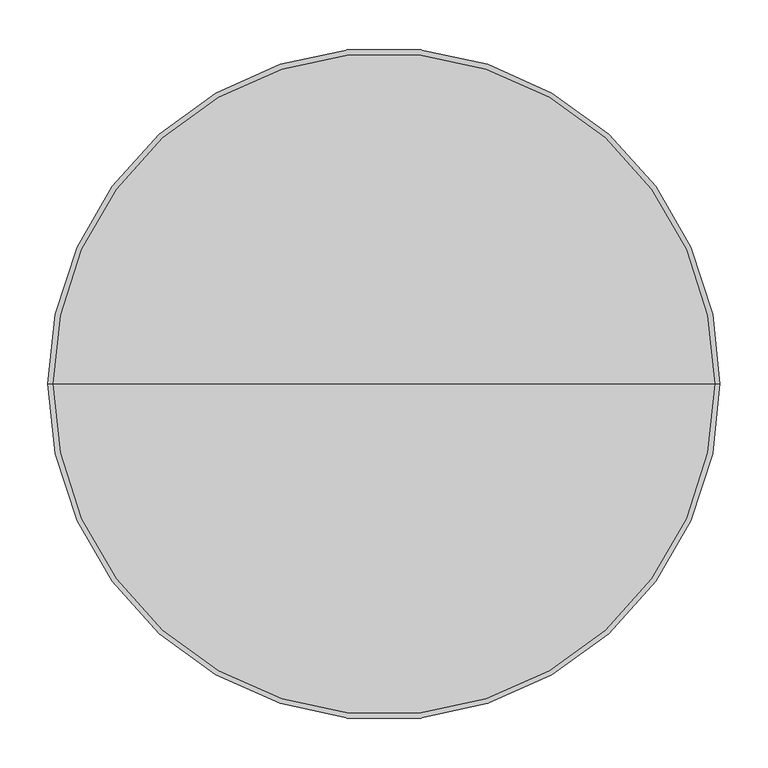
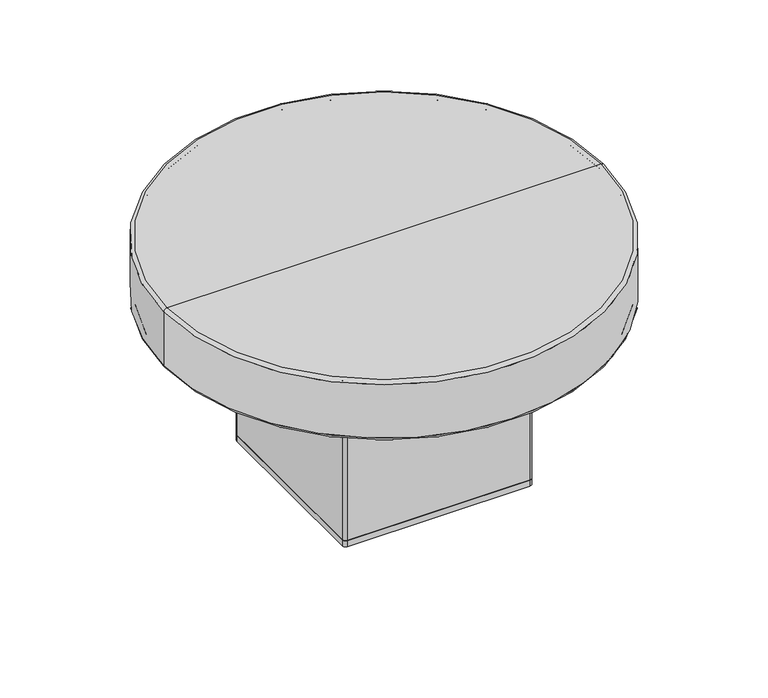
"""IFC4 building model written with IfcOpenShell, lengths in millimetres: furniture geometry, Norr11 - Naked - Coffee Table : Norr11 - Naked - Coffee Table."""

from ifc_helpers import new_model, si_unit, point, frame, origin, place, context, project, spatial, polyline, circle_curve, ellipse_curve, trimmed, source, transform, mapped, element, save
from ifc_brep_helpers import plane_surface, cylinder_surface, revolved_surface, advanced_brep


def furniture_f807c984(model_context):
    return source(origin(), model_context, "Body", "AdvancedBrep", [
        advanced_brep(
        [(-145.0, 150.0, 10.0), (-150.0, 145.0, 10.0), (-150.0, -145.0, 10.0), (-145.0, -150.0, 10.0), (145.0, -150.0, 10.0), (150.0, -145.0, 10.0), (150.0, 145.0, 10.0), (145.0, 150.0, 10.0), (139.0, 144.0, 10.0), (144.0, 139.0, 10.0), (144.0, -139.0, 10.0), (139.0, -144.0, 10.0), (-139.0, -144.0, 10.0), (-144.0, -139.0, 10.0), (-144.0, 139.0, 10.0), (-139.0, 144.0, 10.0), (-145.0, 150.0, 0.0), (145.0, 150.0, 0.0), (150.0, 145.0, 0.0), (150.0, -145.0, 0.0), (145.0, -150.0, 0.0), (-145.0, -150.0, 0.0), (-150.0, -145.0, 0.0), (-150.0, 145.0, 0.0), (139.0, 144.0, 40.0), (-139.0, 144.0, 40.0), (-144.0, 139.0, 40.0), (-144.0, -139.0, 40.0), (-139.0, -144.0, 40.0), (139.0, -144.0, 40.0), (144.0, -139.0, 40.0), (144.0, 139.0, 40.0)],
        [
            (0, 1, circle_curve(frame((-145.0, 145.0, 10.0), z_axis=(0.0, 0.0, 1.0), x_axis=(1.0, 0.0, 0.0)), 5.0)),
            (1, 2),
            (2, 3, circle_curve(frame((-145.0, -145.0, 10.0), z_axis=(0.0, 0.0, 1.0), x_axis=(1.0, 0.0, 0.0)), 5.0)),
            (3, 4),
            (4, 5, circle_curve(frame((145.0, -145.0, 10.0), z_axis=(0.0, 0.0, 1.0), x_axis=(1.0, 0.0, 0.0)), 5.0)),
            (5, 6),
            (6, 7, circle_curve(frame((145.0, 145.0, 10.0), z_axis=(0.0, 0.0, 1.0), x_axis=(1.0, 0.0, 0.0)), 5.0)),
            (7, 0),
            (8, 9, circle_curve(frame((139.0, 139.0, 10.0), z_axis=(0.0, 0.0, -1.0), x_axis=(1.0, 0.0, 0.0)), 5.0)),
            (9, 10),
            (10, 11, circle_curve(frame((139.0, -139.0, 10.0), z_axis=(0.0, 0.0, -1.0), x_axis=(1.0, 0.0, 0.0)), 5.0)),
            (11, 12),
            (12, 13, circle_curve(frame((-139.0, -139.0, 10.0), z_axis=(0.0, 0.0, -1.0), x_axis=(1.0, 0.0, 0.0)), 5.0)),
            (13, 14),
            (14, 15, circle_curve(frame((-139.0, 139.0, 10.0), z_axis=(0.0, 0.0, -1.0), x_axis=(1.0, 0.0, 0.0)), 5.0)),
            (15, 8),
            (16, 17),
            (17, 18, circle_curve(frame((145.0, 145.0, 0.0), z_axis=(0.0, 0.0, -1.0), x_axis=(1.0, 0.0, 0.0)), 5.0)),
            (18, 19),
            (19, 20, circle_curve(frame((145.0, -145.0, 0.0), z_axis=(0.0, 0.0, -1.0), x_axis=(1.0, 0.0, 0.0)), 5.0)),
            (20, 21),
            (21, 22, circle_curve(frame((-145.0, -145.0, 0.0), z_axis=(0.0, 0.0, -1.0), x_axis=(1.0, 0.0, 0.0)), 5.0)),
            (22, 23),
            (23, 16, circle_curve(frame((-145.0, 145.0, 0.0), z_axis=(0.0, 0.0, -1.0), x_axis=(1.0, 0.0, 0.0)), 5.0)),
            (0, 16),
            (23, 1),
            (22, 2),
            (21, 3),
            (20, 4),
            (19, 5),
            (18, 6),
            (17, 7),
            (24, 25),
            (25, 26, circle_curve(frame((-139.0, 139.0, 40.0), z_axis=(0.0, 0.0, 1.0), x_axis=(1.0, 0.0, 0.0)), 5.0)),
            (26, 27),
            (27, 28, circle_curve(frame((-139.0, -139.0, 40.0), z_axis=(0.0, 0.0, 1.0), x_axis=(1.0, 0.0, 0.0)), 5.0)),
            (28, 29),
            (29, 30, circle_curve(frame((139.0, -139.0, 40.0), z_axis=(0.0, 0.0, 1.0), x_axis=(1.0, 0.0, 0.0)), 5.0)),
            (30, 31),
            (31, 24, circle_curve(frame((139.0, 139.0, 40.0), z_axis=(0.0, 0.0, 1.0), x_axis=(1.0, 0.0, 0.0)), 5.0)),
            (31, 9),
            (8, 24),
            (30, 10),
            (29, 11),
            (28, 12),
            (27, 13),
            (26, 14),
            (25, 15),
        ],
        [
            plane_surface(frame((-140.0, 145.0, 10.0), z_axis=(0.0, 0.0, 1.0), x_axis=(0.0, 1.0, 0.0))),
            plane_surface(frame((-140.0, 145.0, 0.0), z_axis=(0.0, 0.0, -1.0), x_axis=(0.0, -1.0, 0.0))),
            cylinder_surface(frame((-145.0, 145.0, 0.0), z_axis=(0.0, 0.0, 1.0), x_axis=(1.0, 0.0, 0.0)), 5.0),
            plane_surface(frame((-150.0, 145.0, 10.0), z_axis=(-1.0, 0.0, 0.0), x_axis=(0.0, 0.0, -1.0))),
            cylinder_surface(frame((-145.0, -145.0, 0.0), z_axis=(0.0, 0.0, 1.0), x_axis=(1.0, 0.0, 0.0)), 5.0),
            plane_surface(frame((-145.0, -150.0, 10.0), z_axis=(0.0, -1.0, 0.0), x_axis=(0.0, 0.0, -1.0))),
            cylinder_surface(frame((145.0, -145.0, 0.0), z_axis=(0.0, 0.0, 1.0), x_axis=(1.0, 0.0, 0.0)), 5.0),
            plane_surface(frame((150.0, -145.0, 10.0), z_axis=(1.0, 0.0, 0.0), x_axis=(0.0, 0.0, -1.0))),
            cylinder_surface(frame((145.0, 145.0, 0.0), z_axis=(0.0, 0.0, 1.0), x_axis=(1.0, 0.0, 0.0)), 5.0),
            plane_surface(frame((145.0, 150.0, 10.0), z_axis=(0.0, 1.0, 0.0), x_axis=(0.0, 0.0, -1.0))),
            plane_surface(frame((-139.0, 144.0, 40.0), z_axis=(0.0, 0.0, 1.0), x_axis=(-1.0, 0.0, 0.0))),
            cylinder_surface(frame((139.0, 139.0, 10.0), z_axis=(0.0, 0.0, 1.0), x_axis=(1.0, 0.0, 0.0)), 5.0),
            plane_surface(frame((144.0, -139.0, 40.0), z_axis=(1.0, 0.0, 0.0), x_axis=(0.0, 0.0, -1.0))),
            cylinder_surface(frame((139.0, -139.0, 10.0), z_axis=(0.0, 0.0, 1.0), x_axis=(1.0, 0.0, 0.0)), 5.0),
            plane_surface(frame((-139.0, -144.0, 40.0), z_axis=(0.0, -1.0, 0.0), x_axis=(0.0, 0.0, -1.0))),
            cylinder_surface(frame((-139.0, -139.0, 10.0), z_axis=(0.0, 0.0, 1.0), x_axis=(1.0, 0.0, 0.0)), 5.0),
            plane_surface(frame((-144.0, 139.0, 40.0), z_axis=(-1.0, 0.0, 0.0), x_axis=(0.0, 0.0, -1.0))),
            cylinder_surface(frame((-139.0, 139.0, 10.0), z_axis=(0.0, 0.0, 1.0), x_axis=(1.0, 0.0, 0.0)), 5.0),
            plane_surface(frame((139.0, 144.0, 40.0), z_axis=(0.0, 1.0, 0.0), x_axis=(0.0, 0.0, -1.0))),
        ],
        [
            (0, [[1, 2, 3, 4, 5, 6, 7, 8], [9, 10, 11, 12, 13, 14, 15, 16]]),
            (1, [[17, 18, 19, 20, 21, 22, 23, 24]]),
            (2, [[-1, 25, -24, 26]]),
            (3, [[-2, -26, -23, 27]]),
            (4, [[-3, -27, -22, 28]]),
            (5, [[-4, -28, -21, 29]]),
            (6, [[-5, -29, -20, 30]]),
            (7, [[-6, -30, -19, 31]]),
            (8, [[-7, -31, -18, 32]]),
            (9, [[-8, -32, -17, -25]]),
            (10, [[33, 34, 35, 36, 37, 38, 39, 40]]),
            (11, [[-40, 41, -9, 42]]),
            (12, [[-39, 43, -10, -41]]),
            (13, [[-38, 44, -11, -43]]),
            (14, [[-37, 45, -12, -44]]),
            (15, [[-36, 46, -13, -45]]),
            (16, [[-35, 47, -14, -46]]),
            (17, [[-34, 48, -15, -47]]),
            (18, [[-33, -42, -16, -48]]),
        ],
    ),
        advanced_brep(
        [(350.0, 0.0, 375.0), (-350.0, 0.0, 375.0), (-345.0, 0.0, 380.0), (345.0, 0.0, 380.0), (350.0, 0.0, 285.0), (-350.0, 0.0, 285.0), (345.0, 0.0, 280.0), (-345.0, 0.0, 280.0), (155.0, 0.0, 280.0), (155.0, 145.0, 280.0), (145.0, 155.0, 280.0), (-145.0, 155.0, 280.0), (-155.0, 145.0, 280.0), (-155.0, 0.0, 280.0), (-155.0, -145.0, 280.0), (-145.0, -155.0, 280.0), (145.0, -155.0, 280.0), (155.0, -145.0, 280.0), (339.0, 0.0, 286.0), (-339.0, 0.0, 286.0), (-149.05, 0.0, 286.0), (-149.05, 139.0, 286.0), (-139.0, 149.05, 286.0), (139.0, 149.05, 286.0), (149.05, 139.0, 286.0), (149.05, 0.0, 286.0), (149.05, -139.0, 286.0), (139.0, -149.05, 286.0), (-139.0, -149.05, 286.0), (-149.05, -139.0, 286.0), (344.0, 0.0, 291.0), (-344.0, 0.0, 291.0), (344.0, 0.0, 369.0), (-344.0, 0.0, 369.0), (339.0, 0.0, 374.0), (-339.0, 0.0, 374.0), (0.0, 0.0, 374.0), (0.0, 0.0, 380.0), (144.0, 139.0, 280.0), (144.0, 139.0, 280.9500068), (139.0, 144.0, 280.95), (139.0, 144.0, 280.0), (144.0, 139.0, 10.0), (144.0, -139.0, 10.0), (144.0, -139.0, 280.0), (144.0, -139.0, 280.95), (139.0, -144.0, 280.0), (139.0, -144.0, 280.9500068), (139.0, -144.0, 10.0), (-139.0, -144.0, 10.0), (-139.0, -144.0, 280.0), (-139.0, -144.0, 280.95), (-144.0, -139.0, 280.0), (-144.0, -139.0, 280.9500068), (-144.0, -139.0, 10.0), (-144.0, 139.0, 10.0), (-144.0, 139.0, 280.0), (-144.0, 139.0, 280.9500068), (-139.0, 144.0, 280.0), (-139.0, 144.0, 280.9500068), (-139.0, 144.0, 10.0), (139.0, 144.0, 10.0), (-145.0, 150.0, 10.0), (145.0, 150.0, 10.0), (150.0, 145.0, 10.0), (150.0, -145.0, 10.0), (145.0, -150.0, 10.0), (-145.0, -150.0, 10.0), (-150.0, -145.0, 10.0), (-150.0, 145.0, 10.0), (-150.0, 145.0, 275.0), (-145.0, 150.0, 275.0), (-150.0, -145.0, 275.0), (-145.0, -150.0, 275.0), (145.0, -150.0, 275.0), (150.0, -145.0, 275.0), (150.0, 145.0, 275.0), (145.0, 150.0, 275.0)],
        [
            (0, 1, circle_curve(frame((0.0, 0.0, 375.0), z_axis=(0.0, 0.0, 1.0), x_axis=(-1.0, 0.0, 0.0)), 350.0)),
            (1, 2, circle_curve(frame((-345.0, 0.0, 375.0), z_axis=(0.0, 1.0, 0.0), x_axis=(1.0, 0.0, 0.0)), 5.0)),
            (2, 3, circle_curve(frame((0.0, 0.0, 380.0), z_axis=(0.0, 0.0, -1.0), x_axis=(-1.0, 0.0, 0.0)), 345.0)),
            (3, 0, circle_curve(frame((345.0, 0.0, 375.0), z_axis=(0.0, 1.0, 0.0), x_axis=(-1.0, 0.0, 0.0)), 5.0)),
            (1, 0, circle_curve(frame((0.0, 0.0, 375.0), z_axis=(0.0, 0.0, 1.0), x_axis=(-1.0, 0.0, 0.0)), 350.0)),
            (3, 2, circle_curve(frame((0.0, 0.0, 380.0), z_axis=(0.0, 0.0, -1.0), x_axis=(-1.0, 0.0, 0.0)), 345.0)),
            (0, 4),
            (4, 5, circle_curve(frame((0.0, 0.0, 285.0), z_axis=(0.0, 0.0, 1.0), x_axis=(-1.0, 0.0, 0.0)), 350.0)),
            (5, 1),
            (5, 4, circle_curve(frame((0.0, 0.0, 285.0), z_axis=(0.0, 0.0, 1.0), x_axis=(-1.0, 0.0, 0.0)), 350.0)),
            (4, 6, circle_curve(frame((345.0, 0.0, 285.0), z_axis=(0.0, 1.0, 0.0), x_axis=(-1.0, 0.0, 0.0)), 5.0)),
            (6, 7, circle_curve(frame((0.0, 0.0, 280.0), z_axis=(0.0, 0.0, 1.0), x_axis=(-1.0, 0.0, 0.0)), 345.0)),
            (7, 5, circle_curve(frame((-345.0, 0.0, 285.0), z_axis=(0.0, 1.0, 0.0), x_axis=(1.0, 0.0, 0.0)), 5.0)),
            (7, 6, circle_curve(frame((0.0, 0.0, 280.0), z_axis=(0.0, 0.0, 1.0), x_axis=(-1.0, 0.0, 0.0)), 345.0)),
            (6, 8),
            (8, 9),
            (9, 10, circle_curve(frame((145.0, 145.0, 280.0), z_axis=(0.0, 0.0, 1.0), x_axis=(1.0, 0.0, 0.0)), 10.0)),
            (10, 11),
            (11, 12, circle_curve(frame((-145.0, 145.0, 280.0), z_axis=(0.0, 0.0, 1.0), x_axis=(0.0, 1.0, 0.0)), 10.0)),
            (12, 13),
            (13, 7),
            (13, 14),
            (14, 15, circle_curve(frame((-145.0, -145.0, 280.0), z_axis=(0.0, 0.0, 1.0), x_axis=(-1.0, 0.0, 0.0)), 10.0)),
            (15, 16),
            (16, 17, circle_curve(frame((145.0, -145.0, 280.0), z_axis=(0.0, 0.0, 1.0), x_axis=(0.0, -1.0, 0.0)), 10.0)),
            (17, 8),
            (18, 19, circle_curve(frame((0.0, 0.0, 286.0), z_axis=(0.0, 0.0, 1.0), x_axis=(-1.0, 0.0, 0.0)), 339.0)),
            (19, 20),
            (20, 21),
            (21, 22, circle_curve(frame((-139.0, 139.0, 286.0), z_axis=(0.0, 0.0, -1.0), x_axis=(-1.0, 0.0, 0.0)), 10.05)),
            (22, 23),
            (23, 24, circle_curve(frame((139.0, 139.0, 286.0), z_axis=(0.0, 0.0, -1.0), x_axis=(0.0, 1.0, 0.0)), 10.05)),
            (24, 25),
            (25, 18),
            (19, 18, circle_curve(frame((0.0, 0.0, 286.0), z_axis=(0.0, 0.0, 1.0), x_axis=(-1.0, 0.0, 0.0)), 339.0)),
            (25, 26),
            (26, 27, circle_curve(frame((139.0, -139.0, 286.0), z_axis=(0.0, 0.0, -1.0), x_axis=(1.0, 0.0, 0.0)), 10.05)),
            (27, 28),
            (28, 29, circle_curve(frame((-139.0, -139.0, 286.0), z_axis=(0.0, 0.0, -1.0), x_axis=(0.0, -1.0, 0.0)), 10.05)),
            (29, 20),
            (18, 30, circle_curve(frame((339.0, 0.0, 291.0), z_axis=(0.0, -1.0, 0.0), x_axis=(-1.0, 0.0, 0.0)), 5.0)),
            (30, 31, circle_curve(frame((0.0, 0.0, 291.0), z_axis=(0.0, 0.0, 1.0), x_axis=(-1.0, 0.0, 0.0)), 344.0)),
            (31, 19, circle_curve(frame((-339.0, 0.0, 291.0), z_axis=(0.0, -1.0, 0.0), x_axis=(1.0, 0.0, 0.0)), 5.0)),
            (31, 30, circle_curve(frame((0.0, 0.0, 291.0), z_axis=(0.0, 0.0, 1.0), x_axis=(-1.0, 0.0, 0.0)), 344.0)),
            (30, 32),
            (32, 33, circle_curve(frame((0.0, 0.0, 369.0), z_axis=(0.0, 0.0, 1.0), x_axis=(-1.0, 0.0, 0.0)), 344.0)),
            (33, 31),
            (33, 32, circle_curve(frame((0.0, 0.0, 369.0), z_axis=(0.0, 0.0, 1.0), x_axis=(-1.0, 0.0, 0.0)), 344.0)),
            (32, 34, circle_curve(frame((339.0, 0.0, 369.0), z_axis=(0.0, -1.0, 0.0), x_axis=(-1.0, 0.0, 0.0)), 5.0)),
            (34, 35, circle_curve(frame((0.0, 0.0, 374.0), z_axis=(0.0, 0.0, 1.0), x_axis=(-1.0, 0.0, 0.0)), 339.0)),
            (35, 33, circle_curve(frame((-339.0, 0.0, 369.0), z_axis=(0.0, -1.0, 0.0), x_axis=(1.0, 0.0, 0.0)), 5.0)),
            (35, 34, circle_curve(frame((0.0, 0.0, 374.0), z_axis=(0.0, 0.0, 1.0), x_axis=(-1.0, 0.0, 0.0)), 339.0)),
            (34, 36),
            (36, 35),
            (2, 37),
            (37, 3),
            (38, 39),
            (39, 40, circle_curve(frame((139.0, 139.0, 280.95), z_axis=(0.0, 0.0, 1.0), x_axis=(1.0, 0.0, 0.0)), 5.0)),
            (40, 41),
            (41, 38, circle_curve(frame((139.0, 139.0, 280.0), z_axis=(0.0, 0.0, -1.0), x_axis=(1.0, 0.0, 0.0)), 5.0)),
            (38, 42),
            (42, 43),
            (43, 44),
            (44, 45),
            (45, 39),
            (44, 46, circle_curve(frame((139.0, -139.0, 280.0), z_axis=(0.0, 0.0, -1.0), x_axis=(1.0, 0.0, 0.0)), 5.0)),
            (46, 47),
            (47, 45, circle_curve(frame((139.0, -139.0, 280.95), z_axis=(0.0, 0.0, 1.0), x_axis=(1.0, 0.0, 0.0)), 5.0)),
            (46, 48),
            (48, 49),
            (49, 50),
            (50, 51),
            (51, 47),
            (50, 52, circle_curve(frame((-139.0, -139.0, 280.0), z_axis=(0.0, 0.0, -1.0), x_axis=(1.0, 0.0, 0.0)), 5.0)),
            (52, 53),
            (53, 51, circle_curve(frame((-139.0, -139.0, 280.95), z_axis=(0.0, 0.0, 1.0), x_axis=(1.0, 0.0, 0.0)), 5.0)),
            (52, 54),
            (54, 55),
            (55, 56),
            (56, 57),
            (57, 53),
            (56, 58, circle_curve(frame((-139.0, 139.0, 280.0), z_axis=(0.0, 0.0, -1.0), x_axis=(1.0, 0.0, 0.0)), 5.0)),
            (58, 59),
            (59, 57, circle_curve(frame((-139.0, 139.0, 280.95), z_axis=(0.0, 0.0, 1.0), x_axis=(1.0, 0.0, 0.0)), 5.0)),
            (58, 60),
            (60, 61),
            (61, 41),
            (40, 59),
            (59, 22, circle_curve(frame((-139.0, 149.05, 280.95), z_axis=(-1.0, 0.0, 0.0), x_axis=(0.0, -1.0, 0.0)), 5.05)),
            (21, 57, circle_curve(frame((-149.05, 139.0, 280.95), z_axis=(0.0, 1.0, 0.0), x_axis=(1.0, 0.0, 0.0)), 5.05)),
            (40, 23, circle_curve(frame((139.0, 149.05, 280.95), z_axis=(-1.0, 0.0, 0.0), x_axis=(0.0, -1.0, 0.0)), 5.05)),
            (39, 24, circle_curve(frame((149.05, 139.0, 280.95), z_axis=(0.0, 1.0, 0.0), x_axis=(-1.0, 0.0, 0.0)), 5.05)),
            (45, 26, circle_curve(frame((149.05, -139.0, 280.95), z_axis=(0.0, 1.0, 0.0), x_axis=(-1.0, 0.0, 0.0)), 5.05)),
            (47, 27, circle_curve(frame((139.0, -149.05, 280.95), z_axis=(1.0, 0.0, 0.0), x_axis=(0.0, 1.0, 0.0)), 5.05)),
            (51, 28, circle_curve(frame((-139.0, -149.05, 280.95), z_axis=(1.0, 0.0, 0.0), x_axis=(0.0, 1.0, 0.0)), 5.05)),
            (53, 29, circle_curve(frame((-149.05, -139.0, 280.95), z_axis=(0.0, -1.0, 0.0), x_axis=(1.0, 0.0, 0.0)), 5.05)),
            (62, 63),
            (63, 64, circle_curve(frame((145.0, 145.0, 10.0), z_axis=(0.0, 0.0, -1.0), x_axis=(1.0, 0.0, 0.0)), 5.0)),
            (64, 65),
            (65, 66, circle_curve(frame((145.0, -145.0, 10.0), z_axis=(0.0, 0.0, -1.0), x_axis=(1.0, 0.0, 0.0)), 5.0)),
            (66, 67),
            (67, 68, circle_curve(frame((-145.0, -145.0, 10.0), z_axis=(0.0, 0.0, -1.0), x_axis=(1.0, 0.0, 0.0)), 5.0)),
            (68, 69),
            (69, 62, circle_curve(frame((-145.0, 145.0, 10.0), z_axis=(0.0, 0.0, -1.0), x_axis=(1.0, 0.0, 0.0)), 5.0)),
            (60, 55, circle_curve(frame((-139.0, 139.0, 10.0), z_axis=(0.0, 0.0, 1.0), x_axis=(1.0, 0.0, 0.0)), 5.0)),
            (54, 49, circle_curve(frame((-139.0, -139.0, 10.0), z_axis=(0.0, 0.0, 1.0), x_axis=(1.0, 0.0, 0.0)), 5.0)),
            (48, 43, circle_curve(frame((139.0, -139.0, 10.0), z_axis=(0.0, 0.0, 1.0), x_axis=(1.0, 0.0, 0.0)), 5.0)),
            (42, 61, circle_curve(frame((139.0, 139.0, 10.0), z_axis=(0.0, 0.0, 1.0), x_axis=(1.0, 0.0, 0.0)), 5.0)),
            (69, 70),
            (70, 71, circle_curve(frame((-145.0, 145.0, 275.0), z_axis=(0.0, 0.0, -1.0), x_axis=(1.0, 0.0, 0.0)), 5.0)),
            (71, 62),
            (68, 72),
            (72, 70),
            (67, 73),
            (73, 72, circle_curve(frame((-145.0, -145.0, 275.0), z_axis=(0.0, 0.0, -1.0), x_axis=(1.0, 0.0, 0.0)), 5.0)),
            (66, 74),
            (74, 73),
            (65, 75),
            (75, 74, circle_curve(frame((145.0, -145.0, 275.0), z_axis=(0.0, 0.0, -1.0), x_axis=(1.0, 0.0, 0.0)), 5.0)),
            (64, 76),
            (76, 75),
            (63, 77),
            (77, 76, circle_curve(frame((145.0, 145.0, 275.0), z_axis=(0.0, 0.0, -1.0), x_axis=(1.0, 0.0, 0.0)), 5.0)),
            (71, 77),
            (14, 72, circle_curve(frame((-155.0, -145.0, 275.0), z_axis=(0.0, 1.0, 0.0), x_axis=(1.0, 0.0, 0.0)), 5.0)),
            (73, 15, circle_curve(frame((-145.0, -155.0, 275.0), z_axis=(1.0, 0.0, 0.0), x_axis=(0.0, 1.0, 0.0)), 5.0)),
            (74, 16, circle_curve(frame((145.0, -155.0, 275.0), z_axis=(1.0, 0.0, 0.0), x_axis=(0.0, 1.0, 0.0)), 5.0)),
            (75, 17, circle_curve(frame((155.0, -145.0, 275.0), z_axis=(0.0, 1.0, 0.0), x_axis=(-1.0, 0.0, 0.0)), 5.0)),
            (76, 9, circle_curve(frame((155.0, 145.0, 275.0), z_axis=(0.0, 1.0, 0.0), x_axis=(-1.0, 0.0, 0.0)), 5.0)),
            (77, 10, circle_curve(frame((145.0, 155.0, 275.0), z_axis=(-1.0, 0.0, 0.0), x_axis=(0.0, -1.0, 0.0)), 5.0)),
            (71, 11, circle_curve(frame((-145.0, 155.0, 275.0), z_axis=(-1.0, 0.0, 0.0), x_axis=(0.0, -1.0, 0.0)), 5.0)),
            (70, 12, circle_curve(frame((-155.0, 145.0, 275.0), z_axis=(0.0, -1.0, 0.0), x_axis=(1.0, 0.0, 0.0)), 5.0)),
        ],
        [
            revolved_surface(trimmed(ellipse_curve(frame((-345.0, 0.0, 375.0), z_axis=(0.0, -1.0, 0.0), x_axis=(1.0, 0.0, 0.0)), 5.0, 5.0), [point((-345.0, 0.0, 380.0))], [point((-350.0, 0.0, 375.0))], True, "CARTESIAN"), (0.0, 0.0, 445.0), (0.0, 0.0, -1.0)),
            cylinder_surface(frame((0.0, 0.0, 445.0), z_axis=(0.0, 0.0, -1.0), x_axis=(-1.0, 0.0, 0.0)), 350.0),
            revolved_surface(trimmed(ellipse_curve(frame((-345.0, 0.0, 285.0), z_axis=(0.0, -1.0, 0.0), x_axis=(1.0, 0.0, 0.0)), 5.0, 5.0), [point((-350.0, 0.0, 285.0))], [point((-345.0, 0.0, 280.0))], True, "CARTESIAN"), (0.0, 0.0, 445.0), (0.0, 0.0, -1.0)),
            plane_surface(frame((0.0, 0.0, 280.0), z_axis=(0.0, 0.0, -1.0), x_axis=(-1.0, 0.0, 0.0))),
            plane_surface(frame((0.0, 0.0, 286.0), z_axis=(0.0, 0.0, 1.0), x_axis=(-1.0, 0.0, 0.0))),
            revolved_surface(trimmed(ellipse_curve(frame((-339.0, 0.0, 291.0), z_axis=(0.0, 1.0, 0.0), x_axis=(1.0, 0.0, 0.0)), 5.0, 5.0), [point((-339.0, 0.0, 286.0))], [point((-344.0, 0.0, 291.0))], True, "CARTESIAN"), (0.0, 0.0, 445.0), (0.0, 0.0, -1.0)),
            revolved_surface(polyline([(-344.0, 0.0, 291.0), (-344.0, 0.0, 369.0)]), (0.0, 0.0, 445.0), (0.0, 0.0, -1.0)),
            revolved_surface(trimmed(ellipse_curve(frame((-339.0, 0.0, 369.0), z_axis=(0.0, 1.0, 0.0), x_axis=(1.0, 0.0, 0.0)), 5.0, 5.0), [point((-344.0, 0.0, 369.0))], [point((-339.0, 0.0, 374.0))], True, "CARTESIAN"), (0.0, 0.0, 445.0), (0.0, 0.0, -1.0)),
            plane_surface(frame((0.0, 0.0, 374.0), z_axis=(0.0, 0.0, -1.0), x_axis=(-1.0, 0.0, 0.0))),
            plane_surface(frame((0.0, 0.0, 380.0), z_axis=(0.0, 0.0, 1.0), x_axis=(-1.0, 0.0, 0.0))),
            revolved_surface(polyline([(144.0, 139.0, 280.9500068), (144.0, 139.0, 280.0)]), (139.0, 139.0, 240.3530592), (0.0, 0.0, 1.0)),
            plane_surface(frame((144.0, -139.0, 337.2010425), z_axis=(-1.0, 0.0, 0.0), x_axis=(0.0, 0.0, -1.0))),
            revolved_surface(polyline([(144.0, -139.0, 280.9500068), (144.0, -139.0, 280.0)]), (139.0, -139.0, 240.3530592), (0.0, 0.0, 1.0)),
            plane_surface(frame((-139.0, -144.0, 337.2010425), z_axis=(0.0, 1.0, 0.0), x_axis=(0.0, 0.0, -1.0))),
            revolved_surface(polyline([(-134.0, -139.0, 280.9500068), (-134.0, -139.0, 280.0)]), (-139.0, -139.0, 240.3530592), (0.0, 0.0, 1.0)),
            plane_surface(frame((-144.0, 139.0, 337.2010425), z_axis=(1.0, 0.0, 0.0), x_axis=(0.0, 0.0, -1.0))),
            revolved_surface(polyline([(-134.0, 139.0, 280.9500068), (-134.0, 139.0, 280.0)]), (-139.0, 139.0, 240.3530592), (0.0, 0.0, 1.0)),
            plane_surface(frame((139.0, 144.0, 337.2010425), z_axis=(0.0, -1.0, 0.0), x_axis=(0.0, 0.0, -1.0))),
            revolved_surface(trimmed(ellipse_curve(frame((-149.05, 139.0, 280.95), z_axis=(0.0, -1.0, 0.0), x_axis=(1.0, 0.0, 0.0)), 5.05, 5.05), [point((-144.0, 139.0, 280.95))], [point((-149.05, 139.0, 286.0))], True, "CARTESIAN"), (-139.0, 139.0, 0.0), (0.0, 0.0, -1.0)),
            cylinder_surface(frame((-139.0, 149.05, 280.95), z_axis=(1.0, 0.0, 0.0), x_axis=(0.0, -1.0, 0.0)), 5.05),
            revolved_surface(trimmed(ellipse_curve(frame((139.0, 149.05, 280.95), z_axis=(-1.0, 0.0, 0.0), x_axis=(0.0, -1.0, 0.0)), 5.05, 5.05), [point((139.0, 144.0, 280.95))], [point((139.0, 149.05, 286.0))], True, "CARTESIAN"), (139.0, 139.0, 0.0), (0.0, 0.0, -1.0)),
            cylinder_surface(frame((149.05, 139.0, 280.95), z_axis=(0.0, -1.0, 0.0), x_axis=(-1.0, 0.0, 0.0)), 5.05),
            revolved_surface(trimmed(ellipse_curve(frame((149.05, -139.0, 280.95), z_axis=(0.0, 1.0, 0.0), x_axis=(-1.0, 0.0, 0.0)), 5.05, 5.05), [point((144.0, -139.0, 280.95))], [point((149.05, -139.0, 286.0))], True, "CARTESIAN"), (139.0, -139.0, 0.0), (0.0, 0.0, -1.0)),
            cylinder_surface(frame((139.0, -149.05, 280.95), z_axis=(-1.0, 0.0, 0.0), x_axis=(0.0, 1.0, 0.0)), 5.05),
            revolved_surface(trimmed(ellipse_curve(frame((-139.0, -149.05, 280.95), z_axis=(1.0, 0.0, 0.0), x_axis=(0.0, 1.0, 0.0)), 5.05, 5.05), [point((-139.0, -144.0, 280.95))], [point((-139.0, -149.05, 286.0))], True, "CARTESIAN"), (-139.0, -139.0, 0.0), (0.0, 0.0, -1.0)),
            cylinder_surface(frame((-149.05, -139.0, 280.95), z_axis=(0.0, 1.0, 0.0), x_axis=(1.0, 0.0, 0.0)), 5.05),
            plane_surface(frame((-140.0, 145.0, 10.0), z_axis=(0.0, 0.0, -1.0), x_axis=(0.0, -1.0, 0.0))),
            cylinder_surface(frame((-145.0, 145.0, 10.0), z_axis=(0.0, 0.0, 1.0), x_axis=(1.0, 0.0, 0.0)), 5.0),
            plane_surface(frame((-150.0, 145.0, 280.0), z_axis=(-1.0, 0.0, 0.0), x_axis=(0.0, 0.0, -1.0))),
            cylinder_surface(frame((-145.0, -145.0, 10.0), z_axis=(0.0, 0.0, 1.0), x_axis=(1.0, 0.0, 0.0)), 5.0),
            plane_surface(frame((-145.0, -150.0, 280.0), z_axis=(0.0, -1.0, 0.0), x_axis=(0.0, 0.0, -1.0))),
            cylinder_surface(frame((145.0, -145.0, 10.0), z_axis=(0.0, 0.0, 1.0), x_axis=(1.0, 0.0, 0.0)), 5.0),
            plane_surface(frame((150.0, -145.0, 280.0), z_axis=(1.0, 0.0, 0.0), x_axis=(0.0, 0.0, -1.0))),
            cylinder_surface(frame((145.0, 145.0, 10.0), z_axis=(0.0, 0.0, 1.0), x_axis=(1.0, 0.0, 0.0)), 5.0),
            plane_surface(frame((145.0, 150.0, 280.0), z_axis=(0.0, 1.0, 0.0), x_axis=(0.0, 0.0, -1.0))),
            revolved_surface(polyline([(144.0, 139.0, 10.0), (144.0, 139.0, 280.0)]), (139.0, 139.0, 0.0), (0.0, 0.0, -1.0)),
            revolved_surface(polyline([(144.0, -139.0, 10.0), (144.0, -139.0, 280.0)]), (139.0, -139.0, 0.0), (0.0, 0.0, -1.0)),
            revolved_surface(polyline([(-134.0, -139.0, 10.0), (-134.0, -139.0, 280.0)]), (-139.0, -139.0, 0.0), (0.0, 0.0, -1.0)),
            revolved_surface(polyline([(-134.0, 139.0, 10.0), (-134.0, 139.0, 280.0)]), (-139.0, 139.0, 0.0), (0.0, 0.0, -1.0)),
            revolved_surface(trimmed(ellipse_curve(frame((-155.0, -145.0, 275.0), z_axis=(0.0, -1.0, 0.0), x_axis=(1.0, 0.0, 0.0)), 5.0, 5.0), [point((-150.0, -145.0, 275.0))], [point((-155.0, -145.0, 280.0))], True, "CARTESIAN"), (-145.0, -145.0, 0.0), (0.0, 0.0, 1.0)),
            revolved_surface(polyline([(145.0, -150.0, 275.0), (-145.0, -150.0, 275.0)]), (-145.0, -155.0, 275.0), (1.0, 0.0, 0.0)),
            revolved_surface(trimmed(ellipse_curve(frame((145.0, -155.0, 275.0), z_axis=(1.0, 0.0, 0.0), x_axis=(0.0, 1.0, 0.0)), 5.0, 5.0), [point((145.0, -150.0, 275.0))], [point((145.0, -155.0, 280.0))], True, "CARTESIAN"), (145.0, -145.0, 0.0), (0.0, 0.0, 1.0)),
            revolved_surface(polyline([(150.0, 145.0, 275.0), (150.0, -145.0, 275.0)]), (155.0, -145.0, 275.0), (0.0, 1.0, 0.0)),
            revolved_surface(trimmed(ellipse_curve(frame((155.0, 145.0, 275.0), z_axis=(0.0, 1.0, 0.0), x_axis=(-1.0, 0.0, 0.0)), 5.0, 5.0), [point((150.0, 145.0, 275.0))], [point((155.0, 145.0, 280.0))], True, "CARTESIAN"), (145.0, 145.0, 0.0), (0.0, 0.0, 1.0)),
            revolved_surface(polyline([(-145.0, 150.0, 275.0), (145.0, 150.0, 275.0)]), (145.0, 155.0, 275.0), (-1.0, 0.0, 0.0)),
            revolved_surface(trimmed(ellipse_curve(frame((-145.0, 155.0, 275.0), z_axis=(-1.0, 0.0, 0.0), x_axis=(0.0, -1.0, 0.0)), 5.0, 5.0), [point((-145.0, 150.0, 275.0))], [point((-145.0, 155.0, 280.0))], True, "CARTESIAN"), (-145.0, 145.0, 0.0), (0.0, 0.0, 1.0)),
            revolved_surface(polyline([(-150.0, -145.0, 275.0), (-150.0, 145.0, 275.0)]), (-155.0, 145.0, 275.0), (0.0, -1.0, 0.0)),
        ],
        [
            (0, [[1, 2, 3, 4]]),
            (0, [[-2, 5, -4, 6]]),
            (1, [[-1, 7, 8, 9]]),
            (1, [[-5, -9, 10, -7]]),
            (2, [[-8, 11, 12, 13]]),
            (2, [[-10, -13, 14, -11]]),
            (3, [[-12, 15, 16, 17, 18, 19, 20, 21]]),
            (3, [[-14, -21, 22, 23, 24, 25, 26, -15]]),
            (4, [[27, 28, 29, 30, 31, 32, 33, 34]]),
            (4, [[35, -34, 36, 37, 38, 39, 40, -28]]),
            (5, [[-27, 41, 42, 43]]),
            (5, [[-35, -43, 44, -41]]),
            (6, [[-42, 45, 46, 47]]),
            (6, [[-44, -47, 48, -45]]),
            (7, [[-46, 49, 50, 51]]),
            (7, [[-48, -51, 52, -49]]),
            (8, [[-50, 53, 54]]),
            (8, [[-52, -54, -53]]),
            (9, [[-3, 55, 56]]),
            (9, [[-6, -56, -55]]),
            (10, [[57, 58, 59, 60]]),
            (11, [[-57, 61, 62, 63, 64, 65]]),
            (12, [[-64, 66, 67, 68]]),
            (13, [[-67, 69, 70, 71, 72, 73]]),
            (14, [[-72, 74, 75, 76]]),
            (15, [[-75, 77, 78, 79, 80, 81]]),
            (16, [[-80, 82, 83, 84]]),
            (17, [[-83, 85, 86, 87, -59, 88]]),
            (18, [[89, -30, 90, -84]]),
            (19, [[-89, -88, 91, -31]]),
            (20, [[-91, -58, 92, -32]]),
            (21, [[-92, -65, 93, -36, -33]]),
            (22, [[-93, -68, 94, -37]]),
            (23, [[-94, -73, 95, -38]]),
            (24, [[-95, -76, 96, -39]]),
            (25, [[-90, -29, -40, -96, -81]]),
            (26, [[97, 98, 99, 100, 101, 102, 103, 104], [-86, 105, -78, 106, -70, 107, -62, 108]]),
            (27, [[-104, 109, 110, 111]]),
            (28, [[-103, 112, 113, -109]]),
            (29, [[-102, 114, 115, -112]]),
            (30, [[-101, 116, 117, -114]]),
            (31, [[-100, 118, 119, -116]]),
            (32, [[-99, 120, 121, -118]]),
            (33, [[-98, 122, 123, -120]]),
            (34, [[-97, -111, 124, -122]]),
            (35, [[-108, -61, -60, -87]]),
            (36, [[-107, -69, -66, -63]]),
            (37, [[-106, -77, -74, -71]]),
            (38, [[-105, -85, -82, -79]]),
            (39, [[125, -115, 126, -23]]),
            (40, [[-126, -117, 127, -24]]),
            (41, [[-127, -119, 128, -25]]),
            (42, [[-128, -121, 129, -16, -26]]),
            (43, [[-129, -123, 130, -17]]),
            (44, [[-130, -124, 131, -18]]),
            (45, [[-131, -110, 132, -19]]),
            (46, [[-125, -22, -20, -132, -113]]),
        ],
    ),
    ])


if __name__ == "__main__":
    model = new_model("IFC4")
    model_context = context("Model", 3, world=origin())
    ifc_project = project(units=[si_unit("LENGTHUNIT", "METRE", prefix="MILLI")], contexts=[model_context])
    site = spatial("IfcSite", under=ifc_project)
    building = spatial("IfcBuilding", under=site)
    placement = place(None, origin())
    furniture_shape = furniture_f807c984(model_context)
    element("IfcFurniture", 1, ObjectType="Norr11 - Naked - Coffee Table : Norr11 - Naked - Coffee Table", at=placement, inside=building, context=model_context, shape_type="MappedRepresentation", body=[
        mapped(furniture_shape, transform((0.0, 0.0, 0.0), x_axis=(1.0, 0.0, 0.0), y_axis=(0.0, 1.0, 0.0), z_axis=(0.0, 0.0, 1.0))),
    ])
    save(model, "model.ifc")
